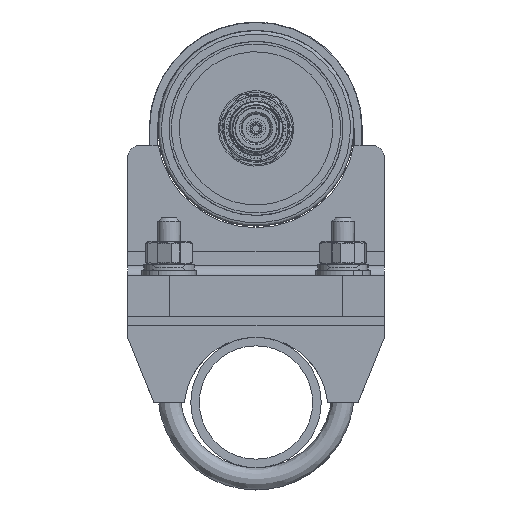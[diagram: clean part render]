
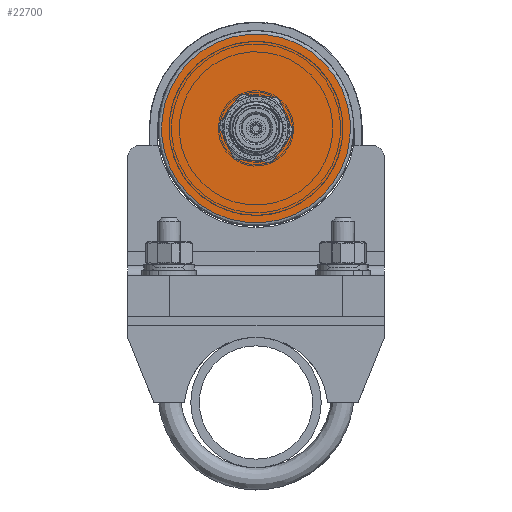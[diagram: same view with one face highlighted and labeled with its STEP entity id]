
A CAD part, front view. The second image highlights one B-rep face of the part: STEP entity #22700.
In plain terms, the highlighted planar face has unit normal (0, -1, 0) as drawn and (0, 1, 0) by its records, which use the part's own axes.
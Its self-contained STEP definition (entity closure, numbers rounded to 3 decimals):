
#1724 = ORIENTED_EDGE ( 'NONE', *, *, #37683, .T. ) ;
#4344 = DIRECTION ( 'NONE',  ( 0., -1., 0. ) ) ;
#4797 = CARTESIAN_POINT ( 'NONE',  ( 0., 0., -7. ) ) ;
#5111 = FACE_BOUND ( 'NONE', #52439, .T. ) ;
#5518 = CIRCLE ( 'NONE', #29565, 27.58 ) ;
#5879 = EDGE_CURVE ( 'NONE', #33865, #8107, #32856, .T. ) ;
#6837 = AXIS2_PLACEMENT_3D ( 'NONE', #7409, #38910, #11901 ) ;
#7409 = CARTESIAN_POINT ( 'NONE',  ( 0., 0., 0. ) ) ;
#7687 = DIRECTION ( 'NONE',  ( 0., -1., 0. ) ) ;
#8107 = VERTEX_POINT ( 'NONE', #30972 ) ;
#11667 = ORIENTED_EDGE ( 'NONE', *, *, #47321, .T. ) ;
#11822 = CARTESIAN_POINT ( 'NONE',  ( 0., 0., 0. ) ) ;
#11901 = DIRECTION ( 'NONE',  ( 0., 0., -1. ) ) ;
#16413 = DIRECTION ( 'NONE',  ( 0., 0., -1. ) ) ;
#16982 = VERTEX_POINT ( 'NONE', #42034 ) ;
#18171 = ORIENTED_EDGE ( 'NONE', *, *, #41760, .F. ) ;
#20457 = AXIS2_PLACEMENT_3D ( 'NONE', #31278, #4344, #35811 ) ;
#21554 = DIRECTION ( 'NONE',  ( 0., -1., 0. ) ) ;
#22700 = ADVANCED_FACE ( 'NONE', ( #30426, #5111 ), #25887, .F. ) ;
#25887 = PLANE ( 'NONE',  #26138 ) ;
#26138 = AXIS2_PLACEMENT_3D ( 'NONE', #57447, #21554, #53136 ) ;
#26693 = CIRCLE ( 'NONE', #44279, 7. ) ;
#29565 = AXIS2_PLACEMENT_3D ( 'NONE', #11822, #43365, #16413 ) ;
#30151 = ORIENTED_EDGE ( 'NONE', *, *, #5879, .F. ) ;
#30426 = FACE_OUTER_BOUND ( 'NONE', #35726, .T. ) ;
#30972 = CARTESIAN_POINT ( 'NONE',  ( 0., 0., -27.58 ) ) ;
#31278 = CARTESIAN_POINT ( 'NONE',  ( 0., 0., 0. ) ) ;
#32856 = CIRCLE ( 'NONE', #6837, 27.58 ) ;
#33865 = VERTEX_POINT ( 'NONE', #35274 ) ;
#34599 = CARTESIAN_POINT ( 'NONE',  ( 0., 0., 0. ) ) ;
#35274 = CARTESIAN_POINT ( 'NONE',  ( 0., 0., 27.58 ) ) ;
#35726 = EDGE_LOOP ( 'NONE', ( #18171, #30151 ) ) ;
#35811 = DIRECTION ( 'NONE',  ( 0., 0., -1. ) ) ;
#37683 = EDGE_CURVE ( 'NONE', #43386, #16982, #26693, .T. ) ;
#38910 = DIRECTION ( 'NONE',  ( 0., -1., 0. ) ) ;
#39190 = DIRECTION ( 'NONE',  ( 0., 0., -1. ) ) ;
#41760 = EDGE_CURVE ( 'NONE', #8107, #33865, #5518, .T. ) ;
#42034 = CARTESIAN_POINT ( 'NONE',  ( 0., 0., 7. ) ) ;
#43365 = DIRECTION ( 'NONE',  ( 0., -1., 0. ) ) ;
#43386 = VERTEX_POINT ( 'NONE', #4797 ) ;
#44279 = AXIS2_PLACEMENT_3D ( 'NONE', #34599, #7687, #39190 ) ;
#47321 = EDGE_CURVE ( 'NONE', #16982, #43386, #47403, .T. ) ;
#47403 = CIRCLE ( 'NONE', #20457, 7. ) ;
#52439 = EDGE_LOOP ( 'NONE', ( #1724, #11667 ) ) ;
#53136 = DIRECTION ( 'NONE',  ( 0., 0., -1. ) ) ;
#57447 = CARTESIAN_POINT ( 'NONE',  ( 0., 0., 0. ) ) ;
